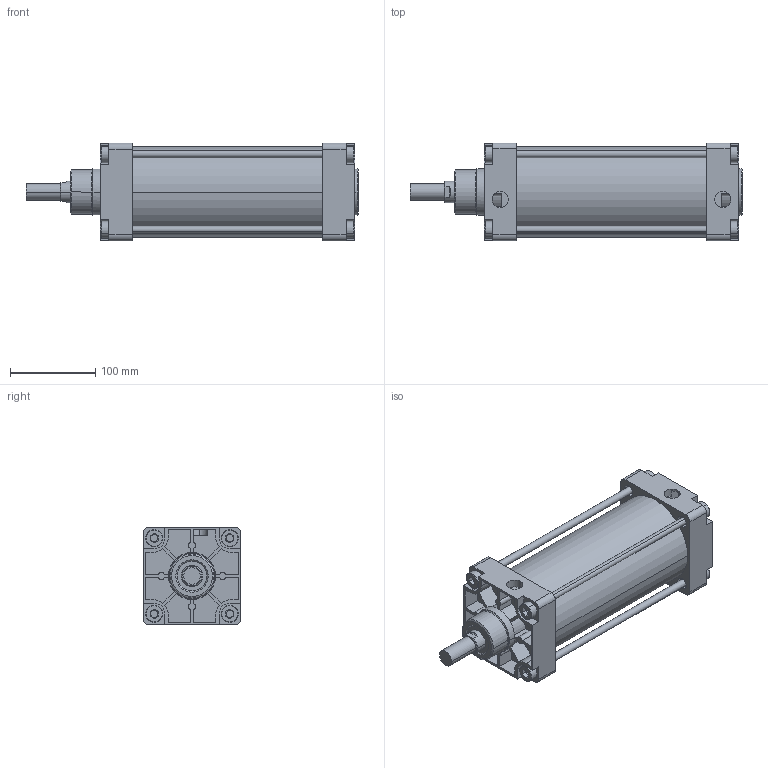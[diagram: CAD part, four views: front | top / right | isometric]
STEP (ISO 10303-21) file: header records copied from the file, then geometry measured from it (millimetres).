
FILE_DESCRIPTION(('CATIA V5 STEP Exchange'),'2;1');
FILE_NAME('D:\stp file for catalog\PNC\100\PNC 100-25-160.stp','2015-10-20T05:56:51+00:00',('none'),('none'),'Version 5-6 Release 2012','CATIA V5 STEP AP203','none');
FILE_SCHEMA(('CONFIG_CONTROL_DESIGN'));
Length unit declared in the file: millimetre
Products named in the file (1): PNC 100-25-160-00
Assembly tree (2 placements, depth 2):
  PNC 100-25-160-00
    #58
    #14124
Bounding box: 390.5 x 115 x 115 mm (x, y, z)
Volume: 1664259.7 mm3; surface area: 378290.3 mm2
Topology: 6 solids, 6 shells, 534 faces, 1388 edges, 914 vertices
Faces by surface type: plane 336, cylinder 166, torus 26, cone 6
Entity records: 14648 total; most frequent: ORIENTED_EDGE 2776, CARTESIAN_POINT 2587, DIRECTION 1886, EDGE_CURVE 1388, VECTOR 922, LINE 922, VERTEX_POINT 914, AXIS2_PLACEMENT_3D 711
